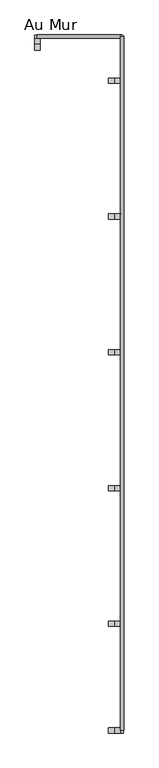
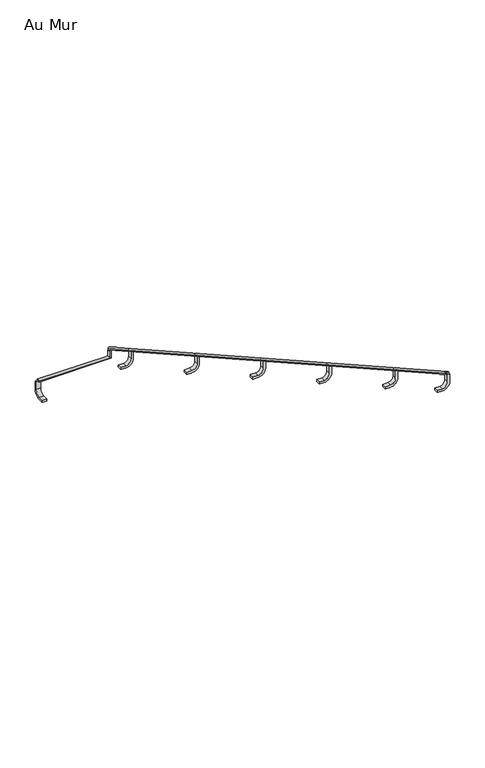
"""IFC4 building model written with IfcOpenShell, lengths in millimetres: railing geometry, Au Mur."""

from ifc_helpers import new_model, si_unit, point, frame, frame_2d, origin, place, context, project, spatial, polyline, circle_curve, ellipse_curve, trimmed, segment, composite_curve, outline, extrude, source, transform, mapped, element, save
from ifc_brep_helpers import plane_surface, cylinder_surface, advanced_brep


def au_mur_27cdfd7d(model_context):
    return source(origin(), model_context, "Body", "SolidModel", [
        advanced_brep(
        [(9158.6466393, 5379.524191, 3923.2392238), (9138.6466393, 5379.524191, 3923.2392238), (9158.6466393, 1292.0685723, 6220.0), (9138.6466393, 1292.0685723, 6220.0)],
        [
            (0, 1, ellipse_curve(frame((9148.6466393, 5379.524191, 3923.2392238), z_axis=(0.0, 1.0, 0.0), x_axis=(0.0, 0.0, -1.0)), 11.4705578, 10.0)),
            (1, 0, ellipse_curve(frame((9148.6466393, 5379.524191, 3923.2392238), z_axis=(0.0, 1.0, 0.0), x_axis=(0.0, 0.0, -1.0)), 11.4705578, 10.0)),
            (2, 3, ellipse_curve(frame((9148.6466393, 1292.0685723, 6220.0), z_axis=(0.0, -1.0, 0.0), x_axis=(0.0, 0.0, -1.0)), 11.4705578, 10.0)),
            (3, 2, ellipse_curve(frame((9148.6466393, 1292.0685723, 6220.0), z_axis=(0.0, -1.0, 0.0), x_axis=(0.0, 0.0, -1.0)), 11.4705578, 10.0)),
            (0, 2),
            (3, 1),
        ],
        [
            plane_surface(frame((9148.6466393, 5379.524191, 3923.2392238), z_axis=(0.0, 1.0, 0.0), x_axis=(0.0, 0.0, -1.0))),
            plane_surface(frame((9148.6466393, 1292.0685723, 6220.0), z_axis=(0.0, -1.0, 0.0), x_axis=(0.0, 0.0, -1.0))),
            cylinder_surface(frame((9148.6466393, 5379.524191, 3923.2392238), z_axis=(0.0, 0.8717971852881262, -0.48986698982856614), x_axis=(-1.0, 0.0, 0.0)), 10.0),
        ],
        [
            (0, [[1, 2]]),
            (1, [[3, 4]]),
            (2, [[-1, 5, -4, 6]]),
            (2, [[-2, -6, -3, -5]]),
        ],
    ),
        advanced_brep(
        [(8648.2466393, 5389.524191, 3860.0), (8648.2466393, 5369.524191, 3860.0), (9148.6466393, 5389.524191, 3860.0), (9148.6466393, 5369.524191, 3860.0), (9148.6466393, 5389.524191, 3906.1496183), (9148.6466393, 5369.524191, 3917.3877136)],
        [
            (0, 1, circle_curve(frame((8648.2466393, 5379.524191, 3860.0), z_axis=(-1.0, 0.0, 0.0), x_axis=(0.0, -1.0, 0.0)), 10.0)),
            (1, 0, circle_curve(frame((8648.2466393, 5379.524191, 3860.0), z_axis=(-1.0, 0.0, 0.0), x_axis=(0.0, -1.0, 0.0)), 10.0)),
            (0, 2),
            (2, 3, ellipse_curve(frame((9148.6466393, 5379.524191, 3860.0), z_axis=(-0.7071067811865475, 0.0, -0.7071067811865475), x_axis=(-0.7071067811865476, 0.0, 0.7071067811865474)), 14.1421356, 10.0)),
            (3, 1),
            (3, 2, ellipse_curve(frame((9148.6466393, 5379.524191, 3860.0), z_axis=(-0.7071067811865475, 0.0, -0.7071067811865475), x_axis=(-0.7071067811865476, 0.0, 0.7071067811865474)), 14.1421356, 10.0)),
            (4, 5, ellipse_curve(frame((9148.6466393, 5379.524191, 3911.768666), z_axis=(0.0, 0.48986698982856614, 0.8717971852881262), x_axis=(0.0, 0.8717971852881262, -0.4898669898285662)), 11.4705578, 10.0)),
            (5, 4, ellipse_curve(frame((9148.6466393, 5379.524191, 3911.768666), z_axis=(0.0, 0.48986698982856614, 0.8717971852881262), x_axis=(0.0, 0.8717971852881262, -0.4898669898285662)), 11.4705578, 10.0)),
            (2, 4),
            (5, 3),
        ],
        [
            plane_surface(frame((8648.2466393, 5379.524191, 3860.0), z_axis=(-1.0, 0.0, 0.0), x_axis=(0.0, 1.0, 0.0))),
            cylinder_surface(frame((8648.2466393, 5379.524191, 3860.0), z_axis=(-1.0, 0.0, 0.0), x_axis=(0.0, -1.0, 0.0)), 10.0),
            plane_surface(frame((9148.6466393, 5379.524191, 3911.768666), z_axis=(0.0, 0.48986698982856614, 0.8717971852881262), x_axis=(1.0, 0.0, 0.0))),
            cylinder_surface(frame((9148.6466393, 5379.524191, 3860.0), z_axis=(0.0, 0.0, -1.0), x_axis=(0.0, -1.0, 0.0)), 10.0),
        ],
        [
            (0, [[1, 2]]),
            (1, [[-1, 3, 4, 5]]),
            (1, [[-2, -5, 6, -3]]),
            (2, [[7, 8]]),
            (3, [[-4, 9, -8, 10]]),
            (3, [[-6, -10, -7, -9]]),
        ],
    ),
        extrude(outline(composite_curve([segment(polyline([(5775.204938, 9068.6466393), (5759.204938, 9068.6466393), (5759.204938, 9103.6466393)]), True, "CONTINUOUS"), segment(trimmed(circle_curve(frame_2d((5812.204938, 9103.6466393)), 53.0), [point((5759.204938, 9103.6466393))], [point((5812.204938, 9156.6466393))], False, "CARTESIAN"), True, "CONTINUOUS"), segment(polyline([(5812.204938, 9156.6466393), (5867.204938, 9156.6466393), (5867.204938, 9140.6466393), (5812.204938, 9140.6466393)]), True, "CONTINUOUS"), segment(trimmed(circle_curve(frame_2d((5812.204938, 9103.6466393)), 37.0), [point((5812.204938, 9140.6466393))], [point((5775.204938, 9103.6466393))], True, "CARTESIAN"), True, "CONTINUOUS"), segment(polyline([(5775.204938, 9103.6466393), (5775.204938, 9068.6466393)]), True, "CONTINUOUS")], self_intersect=False)), frame((0.0, 1904.924191, 0.0), z_axis=(0.0, 1.0, 0.0), x_axis=(0.0, 0.0, 1.0)), (0.0, 0.0, 1.0), 30.0),
        extrude(outline(composite_curve([segment(polyline([(5325.6811285, 9068.6466393), (5309.6811285, 9068.6466393), (5309.6811285, 9103.6466393)]), True, "CONTINUOUS"), segment(trimmed(circle_curve(frame_2d((5362.6811285, 9103.6466393)), 53.0), [point((5309.6811285, 9103.6466393))], [point((5362.6811285, 9156.6466393))], False, "CARTESIAN"), True, "CONTINUOUS"), segment(polyline([(5362.6811285, 9156.6466393), (5417.6811285, 9156.6466393), (5417.6811285, 9140.6466393), (5362.6811285, 9140.6466393)]), True, "CONTINUOUS"), segment(trimmed(circle_curve(frame_2d((5362.6811285, 9103.6466393)), 37.0), [point((5362.6811285, 9140.6466393))], [point((5325.6811285, 9103.6466393))], True, "CARTESIAN"), True, "CONTINUOUS"), segment(polyline([(5325.6811285, 9103.6466393), (5325.6811285, 9068.6466393)]), True, "CONTINUOUS")], self_intersect=False)), frame((0.0, 2704.924191, 0.0), z_axis=(0.0, 1.0, 0.0), x_axis=(0.0, 0.0, 1.0)), (0.0, 0.0, 1.0), 30.0),
        extrude(outline(composite_curve([segment(polyline([(4876.157319, 9068.6466393), (4860.157319, 9068.6466393), (4860.157319, 9103.6466393)]), True, "CONTINUOUS"), segment(trimmed(circle_curve(frame_2d((4913.157319, 9103.6466393)), 53.0), [point((4860.157319, 9103.6466393))], [point((4913.157319, 9156.6466393))], False, "CARTESIAN"), True, "CONTINUOUS"), segment(polyline([(4913.157319, 9156.6466393), (4968.157319, 9156.6466393), (4968.157319, 9140.6466393), (4913.157319, 9140.6466393)]), True, "CONTINUOUS"), segment(trimmed(circle_curve(frame_2d((4913.157319, 9103.6466393)), 37.0), [point((4913.157319, 9140.6466393))], [point((4876.157319, 9103.6466393))], True, "CARTESIAN"), True, "CONTINUOUS"), segment(polyline([(4876.157319, 9103.6466393), (4876.157319, 9068.6466393)]), True, "CONTINUOUS")], self_intersect=False)), frame((0.0, 3504.924191, 0.0), z_axis=(0.0, 1.0, 0.0), x_axis=(0.0, 0.0, 1.0)), (0.0, 0.0, 1.0), 30.0),
        extrude(outline(composite_curve([segment(polyline([(4426.6335095, 9068.6466393), (4410.6335095, 9068.6466393), (4410.6335095, 9103.6466393)]), True, "CONTINUOUS"), segment(trimmed(circle_curve(frame_2d((4463.6335095, 9103.6466393)), 53.0), [point((4410.6335095, 9103.6466393))], [point((4463.6335095, 9156.6466393))], False, "CARTESIAN"), True, "CONTINUOUS"), segment(polyline([(4463.6335095, 9156.6466393), (4518.6335095, 9156.6466393), (4518.6335095, 9140.6466393), (4463.6335095, 9140.6466393)]), True, "CONTINUOUS"), segment(trimmed(circle_curve(frame_2d((4463.6335095, 9103.6466393)), 37.0), [point((4463.6335095, 9140.6466393))], [point((4426.6335095, 9103.6466393))], True, "CARTESIAN"), True, "CONTINUOUS"), segment(polyline([(4426.6335095, 9103.6466393), (4426.6335095, 9068.6466393)]), True, "CONTINUOUS")], self_intersect=False)), frame((0.0, 4304.924191, 0.0), z_axis=(0.0, 1.0, 0.0), x_axis=(0.0, 0.0, 1.0)), (0.0, 0.0, 1.0), 30.0),
        extrude(outline(composite_curve([segment(polyline([(3977.1097, 9068.6466393), (3961.1097, 9068.6466393), (3961.1097, 9103.6466393)]), True, "CONTINUOUS"), segment(trimmed(circle_curve(frame_2d((4014.1097, 9103.6466393)), 53.0), [point((3961.1097, 9103.6466393))], [point((4014.1097, 9156.6466393))], False, "CARTESIAN"), True, "CONTINUOUS"), segment(polyline([(4014.1097, 9156.6466393), (4069.1097, 9156.6466393), (4069.1097, 9140.6466393), (4014.1097, 9140.6466393)]), True, "CONTINUOUS"), segment(trimmed(circle_curve(frame_2d((4014.1097, 9103.6466393)), 37.0), [point((4014.1097, 9140.6466393))], [point((3977.1097, 9103.6466393))], True, "CARTESIAN"), True, "CONTINUOUS"), segment(polyline([(3977.1097, 9103.6466393), (3977.1097, 9068.6466393)]), True, "CONTINUOUS")], self_intersect=False)), frame((0.0, 5104.924191, 0.0), z_axis=(0.0, 1.0, 0.0), x_axis=(0.0, 0.0, 1.0)), (0.0, 0.0, 1.0), 30.0),
        extrude(outline(composite_curve([segment(polyline([(6128.0, 9068.6466393), (6112.0, 9068.6466393), (6112.0, 9103.6466393)]), True, "CONTINUOUS"), segment(trimmed(circle_curve(frame_2d((6165.0, 9103.6466393)), 53.0), [point((6112.0, 9103.6466393))], [point((6165.0, 9156.6466393))], False, "CARTESIAN"), True, "CONTINUOUS"), segment(polyline([(6165.0, 9156.6466393), (6220.0, 9156.6466393), (6220.0, 9140.6466393), (6165.0, 9140.6466393)]), True, "CONTINUOUS"), segment(trimmed(circle_curve(frame_2d((6165.0, 9103.6466393)), 37.0), [point((6165.0, 9140.6466393))], [point((6128.0, 9103.6466393))], True, "CARTESIAN"), True, "CONTINUOUS"), segment(polyline([(6128.0, 9103.6466393), (6128.0, 9068.6466393)]), True, "CONTINUOUS")], self_intersect=False)), frame((0.0, 1277.0685723, 0.0), z_axis=(0.0, 1.0, 0.0), x_axis=(0.0, 0.0, 1.0)), (0.0, 0.0, 1.0), 30.0),
        extrude(outline(composite_curve([segment(polyline([(5299.524191, 3752.0), (5299.524191, 3768.0), (5334.524191, 3768.0)]), True, "CONTINUOUS"), segment(trimmed(circle_curve(frame_2d((5334.524191, 3805.0)), 37.0), [point((5334.524191, 3768.0))], [point((5371.524191, 3805.0))], True, "CARTESIAN"), True, "CONTINUOUS"), segment(polyline([(5371.524191, 3805.0), (5371.524191, 3860.0), (5387.524191, 3860.0), (5387.524191, 3805.0)]), True, "CONTINUOUS"), segment(trimmed(circle_curve(frame_2d((5334.524191, 3805.0)), 53.0), [point((5387.524191, 3805.0))], [point((5334.524191, 3752.0))], False, "CARTESIAN"), True, "CONTINUOUS"), segment(polyline([(5334.524191, 3752.0), (5299.524191, 3752.0)]), True, "CONTINUOUS")], self_intersect=False)), frame((8633.2466393, 0.0, 0.0), z_axis=(1.0, 0.0, 0.0), x_axis=(0.0, 1.0, 0.0)), (0.0, 0.0, 1.0), 30.0),
    ])


if __name__ == "__main__":
    model = new_model("IFC4")
    model_context = context("Model", 3, world=origin())
    ifc_project = project(units=[si_unit("LENGTHUNIT", "METRE", prefix="MILLI")], contexts=[model_context])
    site = spatial("IfcSite", under=ifc_project)
    building = spatial("IfcBuilding", under=site)
    placement = place(None, origin())
    au_mur_shape = au_mur_27cdfd7d(model_context)
    element("IfcRailing", 1, ObjectType="Au Mur", at=placement, inside=building, context=model_context, shape_type="MappedRepresentation", body=[
        mapped(au_mur_shape, transform((0.0, 0.0, 0.0), x_axis=(1.0, 0.0, 0.0), y_axis=(0.0, 1.0, 0.0), z_axis=(0.0, 0.0, 1.0))),
    ])
    save(model, "model.ifc")
